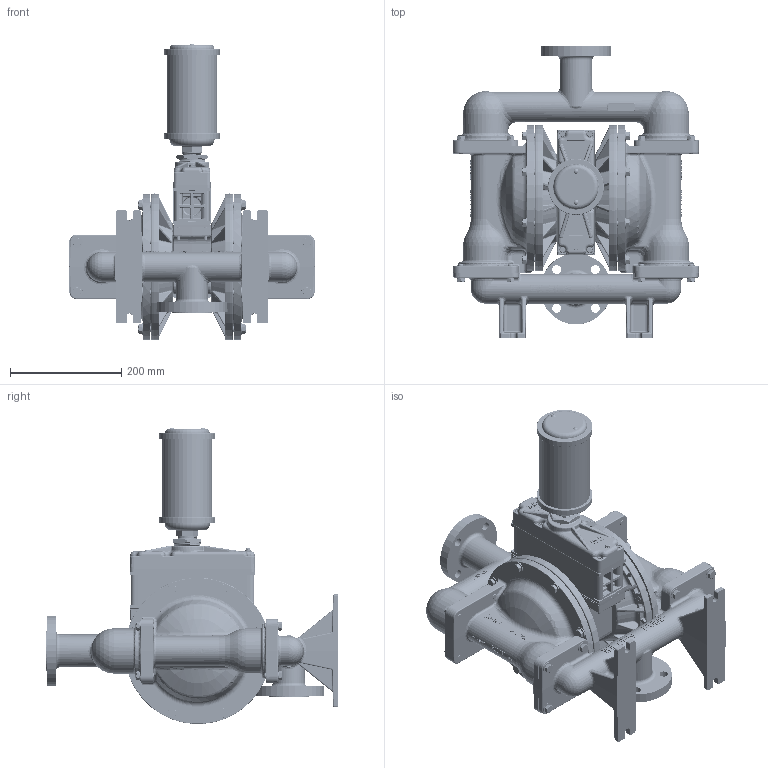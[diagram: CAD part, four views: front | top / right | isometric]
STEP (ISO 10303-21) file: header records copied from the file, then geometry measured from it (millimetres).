
FILE_DESCRIPTION((''),'2;1');
FILE_NAME('PS430_DI_TOP_SW0001','2017-01-18T',('Nathan.hale'),(''),'PRO/ENGINEER BY PARAMETRIC TECHNOLOGY CORPORATION, 2015360','PRO/ENGINEER BY PARAMETRIC TECHNOLOGY CORPORATION, 2015360','');
FILE_SCHEMA(('CONFIG_CONTROL_DESIGN'));
Length unit declared in the file: inch
Products named in the file (1): PS430_DI_TOP_SW0001
Bounding box: 442.46 x 526.06 x 533.53 mm (x, y, z)
Volume: 7966537.5 mm3; surface area: 1827838.1 mm2
Topology: 1 solids, 4 shells, 20150 faces, 52673 edges, 33091 vertices
Faces by surface type: plane 11862, bspline 2955, cylinder 2002, torus 1381, cone 1240, sphere 563, extrusion 147
Entity records: 1109799 total; most frequent: CARTESIAN_POINT 640410, ORIENTED_EDGE 104886, DIRECTION 86924, EDGE_CURVE 52443, VERTEX_POINT 33091, VECTOR 32382, LINE 32235, AXIS2_PLACEMENT_3D 27271
